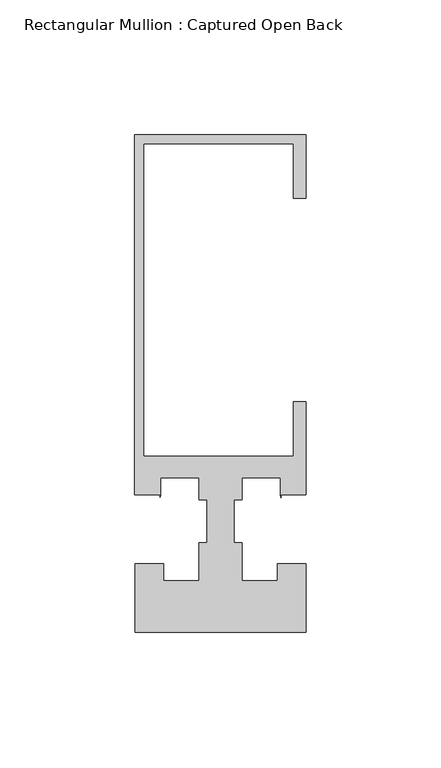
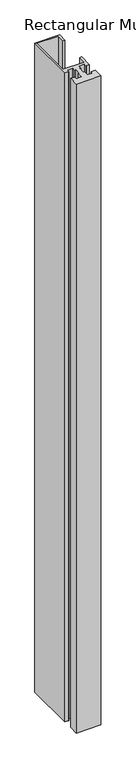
"""IFC4 building model written with IfcOpenShell, lengths in millimetres: member geometry, Rectangular Mullion : Captured Open Back."""

from ifc_helpers import new_model, si_unit, frame, origin, place, context, project, spatial, polyline, outline, extrude, source, transform, mapped, element, save


def rectangular_mullion_captured_open_back_5af97a0e(model_context):
    return source(origin(), model_context, "Body", "SweptSolid", [
        extrude(outline(polyline([(0.0, 114.3), (0.0, 90.8721193), (-4.7830665, 90.8721193), (-4.7830665, 111.1250145), (-60.3449493, 111.1250145), (-60.3449493, -4.7625735), (-4.7830665, -4.7625735), (-4.7830665, 15.5833982), (0.0, 15.5833982), (0.0, -18.933673), (-9.3791839, -18.933673), (-9.3791839, -20.0839351), (-9.5454538, -18.933673), (-9.5454538, -12.7), (-23.7289004, -12.7), (-23.7289004, -20.8793999), (-26.7817813, -20.8793999), (-26.7817813, -36.6491027), (-23.833119, -36.6491027), (-23.833119, -50.8001709), (-10.6860183, -50.8001709), (-10.6860183, -44.4245655), (0.0, -44.4245655), (0.0, -69.8502416), (-63.5, -69.8502416), (-63.5, -44.4247364), (-52.7976545, -44.4247364), (-52.7976545, -50.8001709), (-39.7081202, -50.8001709), (-39.7081202, -36.6491027), (-36.7345137, -36.6491027), (-36.7345137, -20.8793999), (-39.7081204, -20.8793999), (-39.7081204, -12.7), (-53.9955753, -12.7), (-53.9955753, -18.948961), (-54.1818814, -19.8905485), (-54.1818814, -18.9488461), (-63.5205663, -18.9488461), (-63.5205663, 114.3), (0.0, 114.3)])), frame((0.0, 0.0, -1765.3), z_axis=(0.0, 0.0, 1.0), x_axis=(1.0, 0.0, 0.0)), (0.0, 0.0, 1.0), 1765.3),
    ])


if __name__ == "__main__":
    model = new_model("IFC4")
    model_context = context("Model", 3, world=origin())
    ifc_project = project(units=[si_unit("LENGTHUNIT", "METRE", prefix="MILLI")], contexts=[model_context])
    site = spatial("IfcSite", under=ifc_project)
    building = spatial("IfcBuilding", under=site)
    placement = place(None, origin())
    rectangular_mullion_captured_open_back_shape = rectangular_mullion_captured_open_back_5af97a0e(model_context)
    element("IfcMember", 1, ObjectType="Rectangular Mullion : Captured Open Back", at=placement, inside=building, context=model_context, shape_type="MappedRepresentation", body=[
        mapped(rectangular_mullion_captured_open_back_shape, transform((0.0, 0.0, 0.0), x_axis=(1.0, 0.0, 0.0), y_axis=(0.0, 1.0, 0.0), z_axis=(0.0, 0.0, 1.0))),
    ])
    save(model, "model.ifc")
